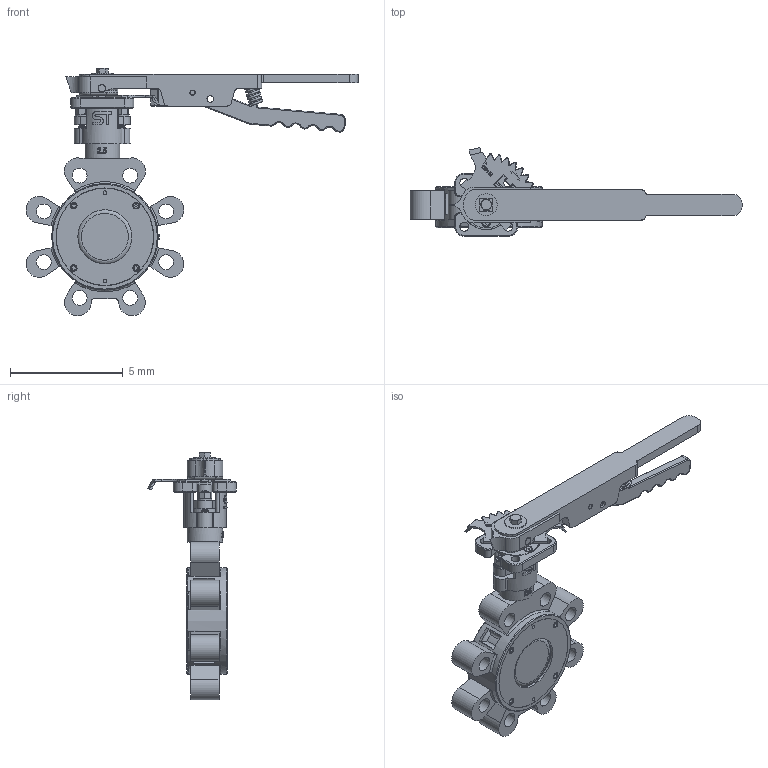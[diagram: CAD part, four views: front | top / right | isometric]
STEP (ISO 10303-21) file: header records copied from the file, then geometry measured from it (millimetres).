
FILE_DESCRIPTION(('Open CASCADE Model'),'2;1');
FILE_NAME('Open CASCADE Shape Model','2022-07-21T07:47:38',('Author'),( 'Open CASCADE'),'Open CASCADE STEP processor 7.3','Open CASCADE 7.3' ,'Unknown');
FILE_SCHEMA(('AUTOMOTIVE_DESIGN { 1 0 10303 214 1 1 1 1 }'));
Length unit declared in the file: millimetre
Products named in the file (36): Open CASCADE STEP translator 7.3 1; Open CASCADE STEP translator 7.3 1.1; Open CASCADE STEP translator 7.3 1.2; Open CASCADE STEP translator 7.3 1.3; Open CASCADE STEP translator 7.3 1.4; Open CASCADE STEP translator 7.3 1.5; Open CASCADE STEP translator 7.3 1.6; Open CASCADE STEP translator 7.3 1.7; Open CASCADE STEP translator 7.3 1.8; Open CASCADE STEP translator 7.3 1.9; Open CASCADE STEP translator 7.3 1.10; Open CASCADE STEP translator 7.3 1.11; Open CASCADE STEP translator 7.3 1.12; Open CASCADE STEP translator 7.3 1.13; Open CASCADE STEP translator 7.3 1.14; Open CASCADE STEP translator 7.3 1.15; Open CASCADE STEP translator 7.3 1.16; Open CASCADE STEP translator 7.3 1.17; Open CASCADE STEP translator 7.3 1.18; Open CASCADE STEP translator 7.3 1.19; Open CASCADE STEP translator 7.3 1.20; Open CASCADE STEP translator 7.3 1.21; Open CASCADE STEP translator 7.3 1.22; Open CASCADE STEP translator 7.3 1.23; Open CASCADE STEP translator 7.3 1.24; Open CASCADE STEP translator 7.3 1.25; Open CASCADE STEP translator 7.3 1.26; Open CASCADE STEP translator 7.3 1.27; Open CASCADE STEP translator 7.3 1.28; Open CASCADE STEP translator 7.3 1.29; Open CASCADE STEP translator 7.3 1.30; Open CASCADE STEP translator 7.3 1.31; Open CASCADE STEP translator 7.3 1.32; Open CASCADE STEP translator 7.3 1.33; Open CASCADE STEP translator 7.3 1.34; Open CASCADE STEP translator 7.3 1.35
Assembly tree (35 placements, depth 2):
  Open CASCADE STEP translator 7.3 1
    Open CASCADE STEP translator 7.3 1.1
    Open CASCADE STEP translator 7.3 1.2
    Open CASCADE STEP translator 7.3 1.3
    Open CASCADE STEP translator 7.3 1.4
    Open CASCADE STEP translator 7.3 1.5
    Open CASCADE STEP translator 7.3 1.6
    Open CASCADE STEP translator 7.3 1.7
    Open CASCADE STEP translator 7.3 1.8
    Open CASCADE STEP translator 7.3 1.9
    Open CASCADE STEP translator 7.3 1.10
    Open CASCADE STEP translator 7.3 1.11
    Open CASCADE STEP translator 7.3 1.12
    Open CASCADE STEP translator 7.3 1.13
    Open CASCADE STEP translator 7.3 1.14
    Open CASCADE STEP translator 7.3 1.15
    Open CASCADE STEP translator 7.3 1.16
    Open CASCADE STEP translator 7.3 1.17
    Open CASCADE STEP translator 7.3 1.18
    Open CASCADE STEP translator 7.3 1.19
    Open CASCADE STEP translator 7.3 1.20
    Open CASCADE STEP translator 7.3 1.21
    Open CASCADE STEP translator 7.3 1.22
    Open CASCADE STEP translator 7.3 1.23
    Open CASCADE STEP translator 7.3 1.24
    Open CASCADE STEP translator 7.3 1.25
    Open CASCADE STEP translator 7.3 1.26
    Open CASCADE STEP translator 7.3 1.27
    Open CASCADE STEP translator 7.3 1.28
    Open CASCADE STEP translator 7.3 1.29
    Open CASCADE STEP translator 7.3 1.30
    Open CASCADE STEP translator 7.3 1.31
    Open CASCADE STEP translator 7.3 1.32
    Open CASCADE STEP translator 7.3 1.33
    Open CASCADE STEP translator 7.3 1.34
    Open CASCADE STEP translator 7.3 1.35
Bounding box: 14.74 x 3.93 x 10.98 mm (x, y, z)
Volume: 52.6 mm3; surface area: 429.5 mm2
Topology: 35 solids, 35 shells, 1227 faces, 2900 edges, 1800 vertices
Faces by surface type: plane 544, cylinder 362, cone 155, torus 103, bspline 48, sphere 15
Full cylindrical faces by diameter (mm): 0.163 x2, 0.165 x2, 0.177 x8, 0.194 x1, 0.197 x2, 0.236 x8, 0.276 x4, 0.295 x7, 0.315 x10, 0.33 x1, 0.394 x9, 0.512 x1, 0.63 x6, 0.642 x1, 0.65 x1, 0.66 x8, 0.67 x1, 0.693 x2, 0.985 x1, 1.087 x2, 1.103 x4, 1.576 x1, 2.403 x1, 2.561 x1, 2.577 x1, 2.656 x1, 2.813 x1, 3.026 x1, 3.034 x1, 3.191 x2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
Entity records: 119182 total; most frequent: CARTESIAN_POINT 60448, DIRECTION 10949, LINE 5798, VECTOR 5798, ORIENTED_EDGE 5770, PCURVE 5770, DEFINITIONAL_REPRESENTATION 5770, EDGE_CURVE 2885
